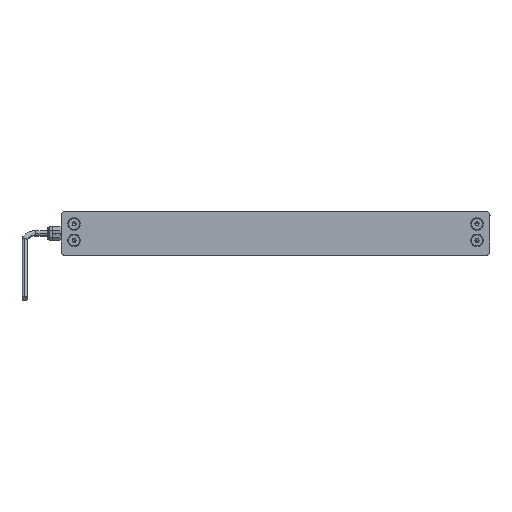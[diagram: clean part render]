
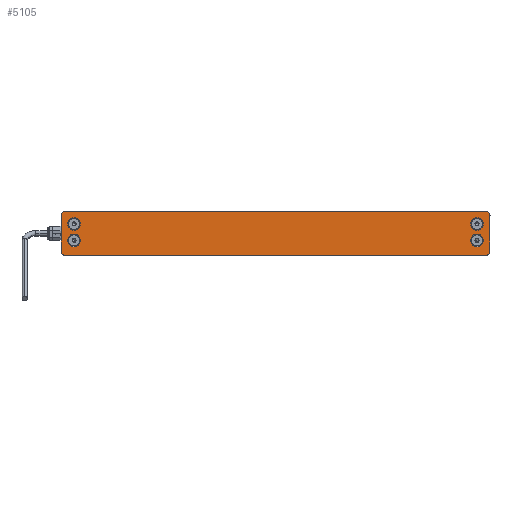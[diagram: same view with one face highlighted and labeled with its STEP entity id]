
A CAD part, left-side view. The second image highlights one B-rep face of the part: STEP entity #5105.
In plain terms, the highlighted planar face has unit normal (-1, 0, 0) as drawn and (0, 0, -1) by its records, which use the part's own axes.
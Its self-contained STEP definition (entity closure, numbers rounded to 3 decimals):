
#168 = AXIS2_PLACEMENT_3D ( 'NONE', #13782, #557, #7180 ) ;
#331 = EDGE_LOOP ( 'NONE', ( #5714, #8411 ) ) ;
#451 = DIRECTION ( 'NONE',  ( 0., 0., 1. ) ) ;
#459 = DIRECTION ( 'NONE',  ( 0., 0., -1. ) ) ;
#478 = DIRECTION ( 'NONE',  ( 0., 0., 1. ) ) ;
#557 = DIRECTION ( 'NONE',  ( 0., 0., -1. ) ) ;
#642 = EDGE_CURVE ( 'NONE', #14416, #8638, #13206, .T. ) ;
#651 = DIRECTION ( 'NONE',  ( 1., 0., 0. ) ) ;
#785 = AXIS2_PLACEMENT_3D ( 'NONE', #3253, #13848, #4727 ) ;
#801 = VECTOR ( 'NONE', #6567, 1000. ) ;
#1006 = DIRECTION ( 'NONE',  ( -1., 0., 0. ) ) ;
#1173 = ORIENTED_EDGE ( 'NONE', *, *, #5840, .F. ) ;
#1254 = EDGE_CURVE ( 'NONE', #13236, #1740, #3138, .T. ) ;
#1342 = CARTESIAN_POINT ( 'NONE',  ( 193., -16., 0. ) ) ;
#1628 = CARTESIAN_POINT ( 'NONE',  ( 189., 20., 0. ) ) ;
#1697 = ORIENTED_EDGE ( 'NONE', *, *, #13808, .F. ) ;
#1740 = VERTEX_POINT ( 'NONE', #9329 ) ;
#2008 = CARTESIAN_POINT ( 'NONE',  ( -189., -20., 0. ) ) ;
#2075 = CARTESIAN_POINT ( 'NONE',  ( -175.7, 8.5, 0. ) ) ;
#2128 = CARTESIAN_POINT ( 'NONE',  ( -186.9, 8.5, 0. ) ) ;
#2217 = DIRECTION ( 'NONE',  ( 0., 0., -1. ) ) ;
#2224 = VERTEX_POINT ( 'NONE', #2075 ) ;
#2252 = AXIS2_PLACEMENT_3D ( 'NONE', #4128, #459, #15813 ) ;
#2307 = CIRCLE ( 'NONE', #7984, 4. ) ;
#2342 = VERTEX_POINT ( 'NONE', #1628 ) ;
#2617 = DIRECTION ( 'NONE',  ( -1., 0., 0. ) ) ;
#2659 = CIRCLE ( 'NONE', #15668, 4. ) ;
#2683 = ORIENTED_EDGE ( 'NONE', *, *, #10611, .F. ) ;
#2853 = EDGE_LOOP ( 'NONE', ( #8725, #4928 ) ) ;
#2944 = VERTEX_POINT ( 'NONE', #15698 ) ;
#3138 = CIRCLE ( 'NONE', #14799, 5.6 ) ;
#3211 = VERTEX_POINT ( 'NONE', #1342 ) ;
#3242 = CIRCLE ( 'NONE', #14901, 4. ) ;
#3253 = CARTESIAN_POINT ( 'NONE',  ( 189., 16., 0. ) ) ;
#3715 = DIRECTION ( 'NONE',  ( 0., 0., -1. ) ) ;
#3745 = CIRCLE ( 'NONE', #10267, 5.6 ) ;
#3787 = EDGE_CURVE ( 'NONE', #5494, #2224, #13183, .T. ) ;
#3860 = CARTESIAN_POINT ( 'NONE',  ( 193., 16., 0. ) ) ;
#3862 = CARTESIAN_POINT ( 'NONE',  ( 186.9, 8.5, 0. ) ) ;
#4128 = CARTESIAN_POINT ( 'NONE',  ( -181.3, 8.5, 0. ) ) ;
#4131 = ORIENTED_EDGE ( 'NONE', *, *, #15134, .F. ) ;
#4309 = ORIENTED_EDGE ( 'NONE', *, *, #4635, .F. ) ;
#4386 = LINE ( 'NONE', #14634, #6546 ) ;
#4420 = ORIENTED_EDGE ( 'NONE', *, *, #15582, .F. ) ;
#4485 = CARTESIAN_POINT ( 'NONE',  ( 193., -16., 0. ) ) ;
#4635 = EDGE_CURVE ( 'NONE', #3211, #5849, #15510, .T. ) ;
#4639 = EDGE_CURVE ( 'NONE', #15557, #11237, #2659, .T. ) ;
#4727 = DIRECTION ( 'NONE',  ( -1., 0., 0. ) ) ;
#4903 = DIRECTION ( 'NONE',  ( 0., 0., 1. ) ) ;
#4919 = AXIS2_PLACEMENT_3D ( 'NONE', #16539, #3715, #1006 ) ;
#4928 = ORIENTED_EDGE ( 'NONE', *, *, #1254, .F. ) ;
#5046 = DIRECTION ( 'NONE',  ( 0., 0., -1. ) ) ;
#5105 = ADVANCED_FACE ( 'NONE', ( #12584, #13519, #9810, #16327, #14802 ), #9977, .T. ) ;
#5482 = VECTOR ( 'NONE', #9059, 1000. ) ;
#5494 = VERTEX_POINT ( 'NONE', #2128 ) ;
#5709 = DIRECTION ( 'NONE',  ( -1., 0., 0. ) ) ;
#5714 = ORIENTED_EDGE ( 'NONE', *, *, #11172, .F. ) ;
#5748 = DIRECTION ( 'NONE',  ( -1., 0., 0. ) ) ;
#5840 = EDGE_CURVE ( 'NONE', #5849, #2342, #3242, .T. ) ;
#5849 = VERTEX_POINT ( 'NONE', #3860 ) ;
#5918 = AXIS2_PLACEMENT_3D ( 'NONE', #14843, #8238, #5709 ) ;
#6182 = CARTESIAN_POINT ( 'NONE',  ( 181.3, -6.3, 0. ) ) ;
#6452 = CARTESIAN_POINT ( 'NONE',  ( -189., -16., 0. ) ) ;
#6546 = VECTOR ( 'NONE', #7090, 1000. ) ;
#6567 = DIRECTION ( 'NONE',  ( 1., 0., 0. ) ) ;
#6581 = VERTEX_POINT ( 'NONE', #9734 ) ;
#6850 = EDGE_CURVE ( 'NONE', #11237, #2944, #9283, .T. ) ;
#6926 = VERTEX_POINT ( 'NONE', #16396 ) ;
#7009 = VERTEX_POINT ( 'NONE', #11803 ) ;
#7090 = DIRECTION ( 'NONE',  ( -1., 0., 0. ) ) ;
#7180 = DIRECTION ( 'NONE',  ( -1., 0., 0. ) ) ;
#7404 = DIRECTION ( 'NONE',  ( -1., 0., 0. ) ) ;
#7454 = DIRECTION ( 'NONE',  ( 0., 0., -1. ) ) ;
#7984 = AXIS2_PLACEMENT_3D ( 'NONE', #13744, #451, #5748 ) ;
#7998 = CARTESIAN_POINT ( 'NONE',  ( -189., -20., 0. ) ) ;
#8052 = ORIENTED_EDGE ( 'NONE', *, *, #4639, .F. ) ;
#8238 = DIRECTION ( 'NONE',  ( 0., 0., -1. ) ) ;
#8411 = ORIENTED_EDGE ( 'NONE', *, *, #8931, .F. ) ;
#8585 = CARTESIAN_POINT ( 'NONE',  ( 181.3, 8.5, 0. ) ) ;
#8638 = VERTEX_POINT ( 'NONE', #3862 ) ;
#8725 = ORIENTED_EDGE ( 'NONE', *, *, #11972, .F. ) ;
#8891 = ORIENTED_EDGE ( 'NONE', *, *, #12273, .F. ) ;
#8931 = EDGE_CURVE ( 'NONE', #9774, #7009, #14582, .T. ) ;
#9059 = DIRECTION ( 'NONE',  ( 0., -1., 0. ) ) ;
#9283 = LINE ( 'NONE', #7998, #801 ) ;
#9329 = CARTESIAN_POINT ( 'NONE',  ( -186.9, -6.3, 0. ) ) ;
#9375 = EDGE_LOOP ( 'NONE', ( #11267, #2683 ) ) ;
#9474 = VECTOR ( 'NONE', #14238, 1000. ) ;
#9632 = ORIENTED_EDGE ( 'NONE', *, *, #6850, .F. ) ;
#9734 = CARTESIAN_POINT ( 'NONE',  ( -189., 20., 0. ) ) ;
#9774 = VERTEX_POINT ( 'NONE', #11918 ) ;
#9810 = FACE_BOUND ( 'NONE', #9375, .T. ) ;
#9977 = PLANE ( 'NONE',  #785 ) ;
#10267 = AXIS2_PLACEMENT_3D ( 'NONE', #8585, #2217, #7404 ) ;
#10351 = CARTESIAN_POINT ( 'NONE',  ( -193., -16., 0. ) ) ;
#10377 = EDGE_LOOP ( 'NONE', ( #1173, #4309, #8891, #9632, #8052, #4420, #4131, #16299 ) ) ;
#10510 = LINE ( 'NONE', #10680, #5482 ) ;
#10611 = EDGE_CURVE ( 'NONE', #2224, #5494, #14415, .T. ) ;
#10680 = CARTESIAN_POINT ( 'NONE',  ( -193., -16., 0. ) ) ;
#11104 = CARTESIAN_POINT ( 'NONE',  ( -175.7, -6.3, 0. ) ) ;
#11172 = EDGE_CURVE ( 'NONE', #7009, #9774, #15178, .T. ) ;
#11237 = VERTEX_POINT ( 'NONE', #2008 ) ;
#11267 = ORIENTED_EDGE ( 'NONE', *, *, #3787, .F. ) ;
#11589 = DIRECTION ( 'NONE',  ( 0., 0., -1. ) ) ;
#11625 = DIRECTION ( 'NONE',  ( 0., 0., 1. ) ) ;
#11803 = CARTESIAN_POINT ( 'NONE',  ( 175.7, -6.3, 0. ) ) ;
#11918 = CARTESIAN_POINT ( 'NONE',  ( 186.9, -6.3, 0. ) ) ;
#11972 = EDGE_CURVE ( 'NONE', #1740, #13236, #13008, .T. ) ;
#12273 = EDGE_CURVE ( 'NONE', #2944, #3211, #15530, .T. ) ;
#12485 = AXIS2_PLACEMENT_3D ( 'NONE', #6182, #7454, #15249 ) ;
#12584 = FACE_BOUND ( 'NONE', #13062, .T. ) ;
#12934 = DIRECTION ( 'NONE',  ( -1., 0., 0. ) ) ;
#13008 = CIRCLE ( 'NONE', #4919, 5.6 ) ;
#13017 = CARTESIAN_POINT ( 'NONE',  ( -181.3, -6.3, 0. ) ) ;
#13062 = EDGE_LOOP ( 'NONE', ( #14016, #1697 ) ) ;
#13183 = CIRCLE ( 'NONE', #168, 5.6 ) ;
#13206 = CIRCLE ( 'NONE', #5918, 5.6 ) ;
#13236 = VERTEX_POINT ( 'NONE', #11104 ) ;
#13381 = CARTESIAN_POINT ( 'NONE',  ( 189., -16., 0. ) ) ;
#13424 = CARTESIAN_POINT ( 'NONE',  ( 175.7, 8.5, 0. ) ) ;
#13519 = FACE_BOUND ( 'NONE', #331, .T. ) ;
#13744 = CARTESIAN_POINT ( 'NONE',  ( -189., 16., 0. ) ) ;
#13782 = CARTESIAN_POINT ( 'NONE',  ( -181.3, 8.5, 0. ) ) ;
#13808 = EDGE_CURVE ( 'NONE', #8638, #14416, #3745, .T. ) ;
#13848 = DIRECTION ( 'NONE',  ( 0., 0., -1. ) ) ;
#14016 = ORIENTED_EDGE ( 'NONE', *, *, #642, .F. ) ;
#14024 = CARTESIAN_POINT ( 'NONE',  ( 189., 16., 0. ) ) ;
#14238 = DIRECTION ( 'NONE',  ( 0., 1., 0. ) ) ;
#14415 = CIRCLE ( 'NONE', #2252, 5.6 ) ;
#14416 = VERTEX_POINT ( 'NONE', #13424 ) ;
#14582 = CIRCLE ( 'NONE', #15136, 5.6 ) ;
#14634 = CARTESIAN_POINT ( 'NONE',  ( -189., 20., 0. ) ) ;
#14799 = AXIS2_PLACEMENT_3D ( 'NONE', #13017, #11589, #12934 ) ;
#14802 = FACE_OUTER_BOUND ( 'NONE', #10377, .T. ) ;
#14843 = CARTESIAN_POINT ( 'NONE',  ( 181.3, 8.5, 0. ) ) ;
#14901 = AXIS2_PLACEMENT_3D ( 'NONE', #14024, #4903, #15228 ) ;
#15042 = DIRECTION ( 'NONE',  ( -1., 0., 0. ) ) ;
#15134 = EDGE_CURVE ( 'NONE', #6581, #6926, #2307, .T. ) ;
#15136 = AXIS2_PLACEMENT_3D ( 'NONE', #16652, #5046, #15042 ) ;
#15178 = CIRCLE ( 'NONE', #12485, 5.6 ) ;
#15228 = DIRECTION ( 'NONE',  ( -1., 0., 0. ) ) ;
#15249 = DIRECTION ( 'NONE',  ( -1., 0., 0. ) ) ;
#15281 = AXIS2_PLACEMENT_3D ( 'NONE', #13381, #478, #651 ) ;
#15510 = LINE ( 'NONE', #4485, #9474 ) ;
#15530 = CIRCLE ( 'NONE', #15281, 4. ) ;
#15557 = VERTEX_POINT ( 'NONE', #10351 ) ;
#15582 = EDGE_CURVE ( 'NONE', #6926, #15557, #10510, .T. ) ;
#15668 = AXIS2_PLACEMENT_3D ( 'NONE', #6452, #11625, #2617 ) ;
#15698 = CARTESIAN_POINT ( 'NONE',  ( 189., -20., 0. ) ) ;
#15813 = DIRECTION ( 'NONE',  ( -1., 0., 0. ) ) ;
#15975 = EDGE_CURVE ( 'NONE', #2342, #6581, #4386, .T. ) ;
#16299 = ORIENTED_EDGE ( 'NONE', *, *, #15975, .F. ) ;
#16327 = FACE_BOUND ( 'NONE', #2853, .T. ) ;
#16396 = CARTESIAN_POINT ( 'NONE',  ( -193., 16., 0. ) ) ;
#16539 = CARTESIAN_POINT ( 'NONE',  ( -181.3, -6.3, 0. ) ) ;
#16652 = CARTESIAN_POINT ( 'NONE',  ( 181.3, -6.3, 0. ) ) ;
